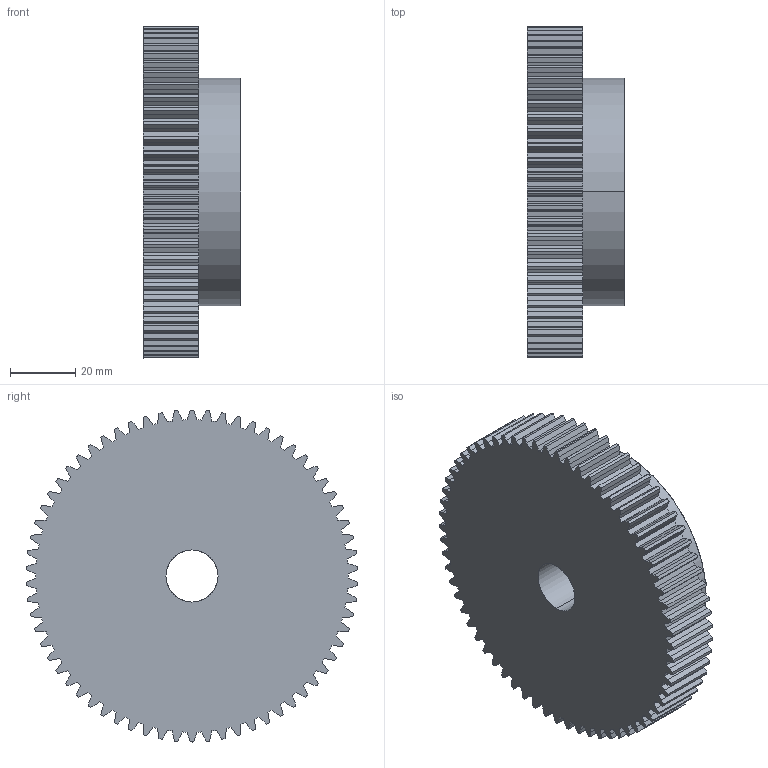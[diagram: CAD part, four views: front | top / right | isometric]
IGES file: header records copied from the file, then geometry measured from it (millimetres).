
Start section: SolidWorks IGES file using analytic representation for surfaces
Global section: file name: C:\Users\Honza\Desktop\Matis (Hotove)\Èelní ozubená kola\PM\MODUL 1,5\PM 27066.IGS; native system: SolidWorks 2010; preprocessor: SolidWorks 2010; author: Honza; date: 130924.141837; units: millimetre
Bounding box: 30 x 101.93 x 102 mm (x, y, z)
Surface area: 29250.4 mm2 (no closed solid volume)
Topology: 0 solids, 0 shells, 404 faces, 2591 edges, 2591 vertices
Faces by surface type: bspline 267, revolution 137
